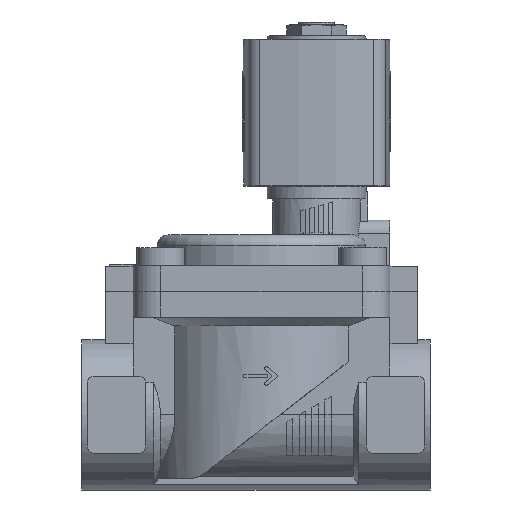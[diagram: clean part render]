
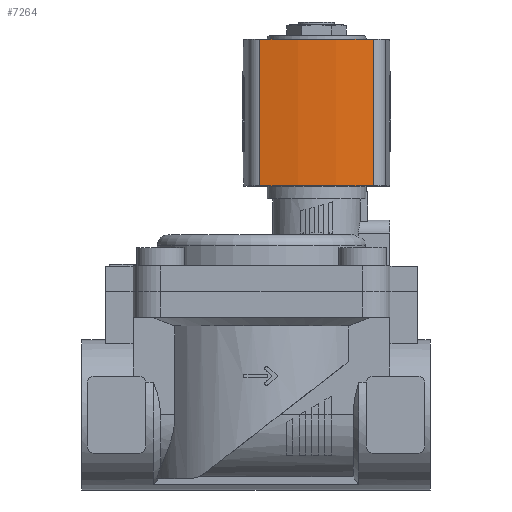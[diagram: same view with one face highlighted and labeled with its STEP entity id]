
A CAD part, top view. The second image highlights one B-rep face of the part: STEP entity #7264.
In plain terms, the highlighted cylindrical face has radius 80 mm (diameter 160 mm), a partial arc.
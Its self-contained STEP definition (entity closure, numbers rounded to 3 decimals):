
#239=CYLINDRICAL_SURFACE('',#7859,80.);
#704=LINE('',#11460,#1260);
#705=LINE('',#11464,#1261);
#1260=VECTOR('',#9407,1000.);
#1261=VECTOR('',#9412,1000.);
#2779=ORIENTED_EDGE('',*,*,#3857,.T.);
#2780=ORIENTED_EDGE('',*,*,#3858,.F.);
#2781=ORIENTED_EDGE('',*,*,#3805,.F.);
#2782=ORIENTED_EDGE('',*,*,#3856,.T.);
#3805=EDGE_CURVE('',#4460,#4461,#4744,.T.);
#3856=EDGE_CURVE('',#4460,#4504,#704,.T.);
#3857=EDGE_CURVE('',#4504,#4505,#4765,.T.);
#3858=EDGE_CURVE('',#4461,#4505,#705,.T.);
#4460=VERTEX_POINT('',#11360);
#4461=VERTEX_POINT('',#11361);
#4504=VERTEX_POINT('',#11459);
#4505=VERTEX_POINT('',#11463);
#4744=CIRCLE('',#7825,80.);
#4765=CIRCLE('',#7860,80.);
#5080=EDGE_LOOP('',(#2779,#2780,#2781,#2782));
#5470=FACE_BOUND('',#5080,.T.);
#7264=ADVANCED_FACE('',(#5470),#239,.T.);
#7825=AXIS2_PLACEMENT_3D('',#11359,#9317,#9318);
#7859=AXIS2_PLACEMENT_3D('',#11461,#9408,#9409);
#7860=AXIS2_PLACEMENT_3D('',#11462,#9410,#9411);
#9317=DIRECTION('',(0.,1.,0.));
#9318=DIRECTION('',(1.,0.,0.));
#9407=DIRECTION('',(0.,-1.,0.));
#9408=DIRECTION('',(0.,-1.,0.));
#9409=DIRECTION('',(0.,0.,-1.));
#9410=DIRECTION('',(0.,1.,0.));
#9411=DIRECTION('',(1.,0.,0.));
#9412=DIRECTION('',(0.,-1.,0.));
#11359=CARTESIAN_POINT('',(-56.5,14.,0.));
#11360=CARTESIAN_POINT('',(21.99,14.,15.472));
#11361=CARTESIAN_POINT('',(21.99,14.,-15.472));
#11459=CARTESIAN_POINT('',(21.99,-26.,15.472));
#11460=CARTESIAN_POINT('',(21.99,14.,15.472));
#11461=CARTESIAN_POINT('',(-56.5,14.,0.));
#11462=CARTESIAN_POINT('',(-56.5,-26.,0.));
#11463=CARTESIAN_POINT('',(21.99,-26.,-15.472));
#11464=CARTESIAN_POINT('',(21.99,14.,-15.472));
